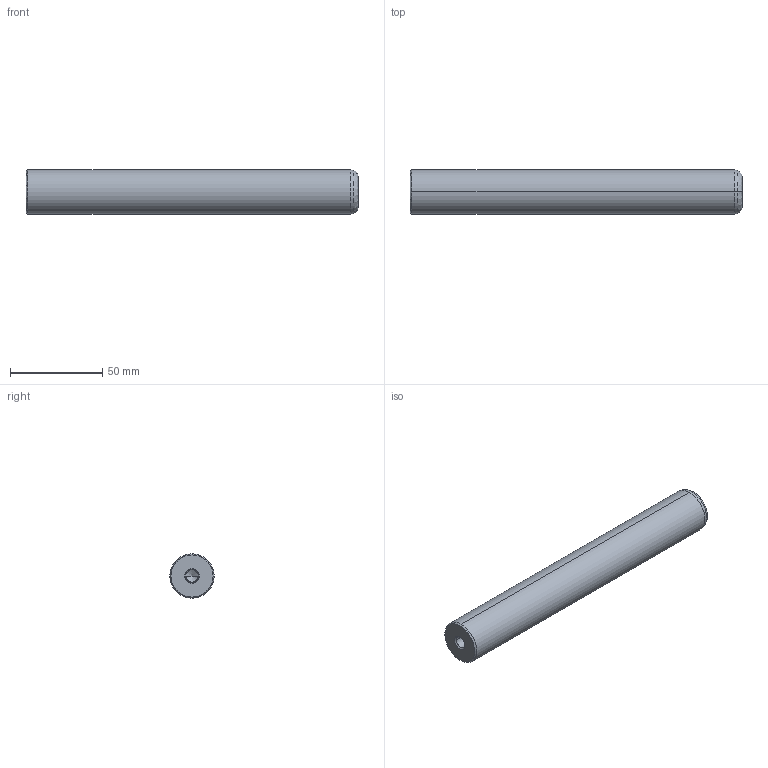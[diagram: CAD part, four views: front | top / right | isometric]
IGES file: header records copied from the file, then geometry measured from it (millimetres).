
Start section: START RECORD GO HERE.
Global section: file name: 720-24x180.igs; native system: DASSAULT SYSTEMES CATIA V5 R20 - www.3ds.com; preprocessor: CATIA Version 5 Release 20 ; author: Utente; organization: NB04-ASUS; date: 20210101.135232; units: millimetre
Bounding box: 180 x 24 x 24 mm (x, y, z)
Surface area: 15311.7 mm2 (no closed solid volume)
Topology: 0 solids, 0 shells, 22 faces, 108 edges, 104 vertices
Faces by surface type: revolution 20, plane 2
